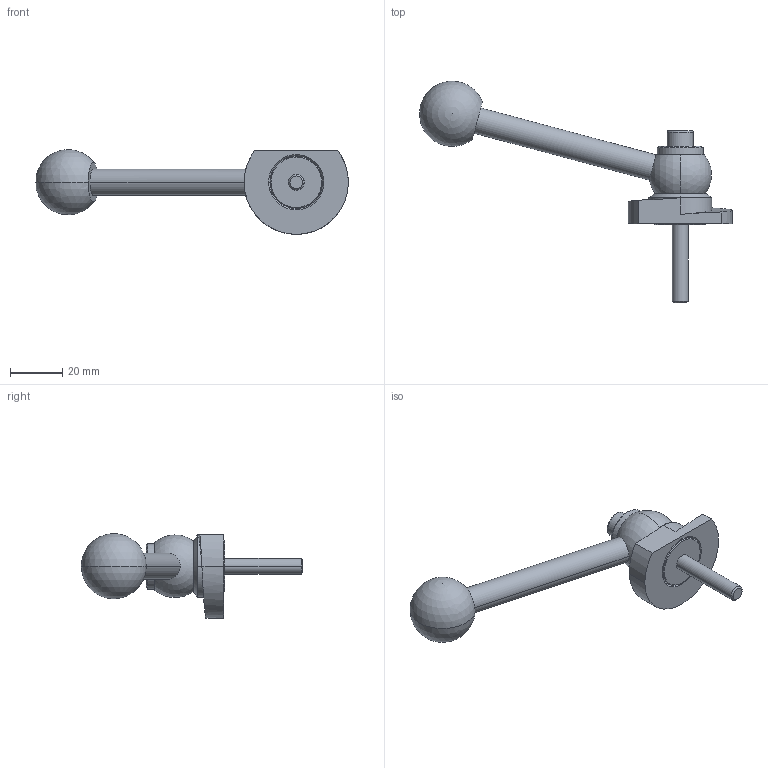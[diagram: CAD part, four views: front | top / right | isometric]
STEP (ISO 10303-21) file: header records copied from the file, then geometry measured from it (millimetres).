
FILE_DESCRIPTION (( 'STEP AP214' ), '1' );
FILE_NAME ('918.1-40-KVS-R-30.step', '2024-05-15T13:00:27', ( '' ), ( '' ), 'SwSTEP 2.0', 'SolidWorks 2022', '' );
FILE_SCHEMA (( 'AUTOMOTIVE_DESIGN' ));
Length unit declared in the file: millimetre
Products named in the file (1): 918.1-40-KVS-R-30
Bounding box: 119.95 x 84.99 x 32.5 mm (x, y, z)
Volume: 30598.4 mm3; surface area: 11401.6 mm2
Topology: 1 solids, 1 shells, 64 faces, 147 edges, 93 vertices
Faces by surface type: cylinder 22, plane 20, cone 14, sphere 4, torus 2, bspline 2
Entity records: 2045 total; most frequent: CARTESIAN_POINT 590, DIRECTION 321, ORIENTED_EDGE 274, EDGE_CURVE 137, AXIS2_PLACEMENT_3D 131, VERTEX_POINT 87, EDGE_LOOP 76, CIRCLE 68
